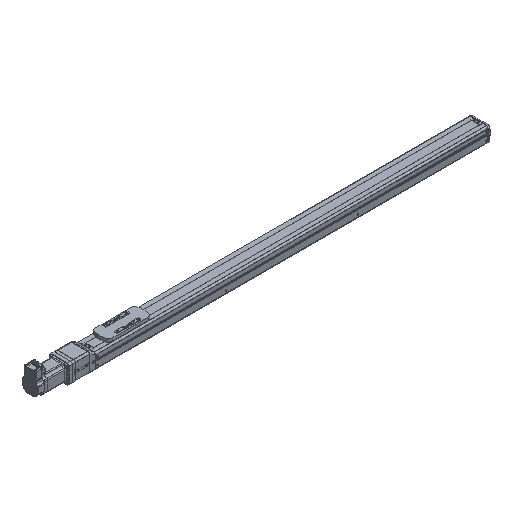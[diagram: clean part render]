
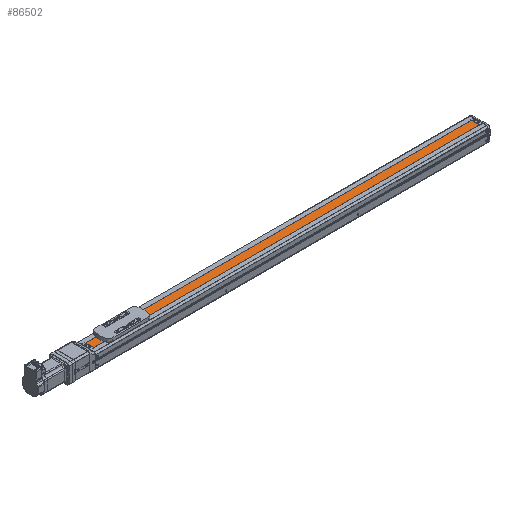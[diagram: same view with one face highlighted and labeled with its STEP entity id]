
A CAD part, isometric view. The second image highlights one B-rep face of the part: STEP entity #86502.
In plain terms, the highlighted planar face has unit normal (0, 0, 1) as drawn and (0, 1, 0) by its records, which use the part's own axes.
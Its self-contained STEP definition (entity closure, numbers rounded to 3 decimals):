
#86502 = ADVANCED_FACE('',(#86503),#86517,.T.);
#86503 = FACE_BOUND('',#86504,.T.);
#86504 = EDGE_LOOP('',(#86505,#86540,#86568,#86596));
#86505 = ORIENTED_EDGE('',*,*,#86506,.F.);
#86506 = EDGE_CURVE('',#86507,#86509,#86511,.T.);
#86507 = VERTEX_POINT('',#86508);
#86508 = CARTESIAN_POINT('',(-1280.5,18.,-13.));
#86509 = VERTEX_POINT('',#86510);
#86510 = CARTESIAN_POINT('',(-21.5,18.,-13.));
#86511 = SURFACE_CURVE('',#86512,(#86516,#86528),.PCURVE_S1.);
#86512 = LINE('',#86513,#86514);
#86513 = CARTESIAN_POINT('',(-1280.5,18.,-13.));
#86514 = VECTOR('',#86515,1.);
#86515 = DIRECTION('',(1.,0.,0.));
#86516 = PCURVE('',#86517,#86522);
#86517 = PLANE('',#86518);
#86518 = AXIS2_PLACEMENT_3D('',#86519,#86520,#86521);
#86519 = CARTESIAN_POINT('',(-1290.5,18.,-26.583));
#86520 = DIRECTION('',(0.,1.,0.));
#86521 = DIRECTION('',(0.,-0.,1.));
#86522 = DEFINITIONAL_REPRESENTATION('',(#86523),#86527);
#86523 = LINE('',#86524,#86525);
#86524 = CARTESIAN_POINT('',(13.583,10.));
#86525 = VECTOR('',#86526,1.);
#86526 = DIRECTION('',(0.,1.));
#86527 = ( GEOMETRIC_REPRESENTATION_CONTEXT(2) 
PARAMETRIC_REPRESENTATION_CONTEXT() REPRESENTATION_CONTEXT('2D SPACE',''
  ) );
#86528 = PCURVE('',#86529,#86534);
#86529 = PLANE('',#86530);
#86530 = AXIS2_PLACEMENT_3D('',#86531,#86532,#86533);
#86531 = CARTESIAN_POINT('',(-1280.5,18.,-13.));
#86532 = DIRECTION('',(0.,0.,1.));
#86533 = DIRECTION('',(1.,0.,-0.));
#86534 = DEFINITIONAL_REPRESENTATION('',(#86535),#86539);
#86535 = LINE('',#86536,#86537);
#86536 = CARTESIAN_POINT('',(0.,0.));
#86537 = VECTOR('',#86538,1.);
#86538 = DIRECTION('',(1.,0.));
#86539 = ( GEOMETRIC_REPRESENTATION_CONTEXT(2) 
PARAMETRIC_REPRESENTATION_CONTEXT() REPRESENTATION_CONTEXT('2D SPACE',''
  ) );
#86540 = ORIENTED_EDGE('',*,*,#86541,.T.);
#86541 = EDGE_CURVE('',#86507,#86542,#86544,.T.);
#86542 = VERTEX_POINT('',#86543);
#86543 = CARTESIAN_POINT('',(-1280.5,18.,13.));
#86544 = SURFACE_CURVE('',#86545,(#86549,#86556),.PCURVE_S1.);
#86545 = LINE('',#86546,#86547);
#86546 = CARTESIAN_POINT('',(-1280.5,18.,-26.583));
#86547 = VECTOR('',#86548,1.);
#86548 = DIRECTION('',(0.,0.,1.));
#86549 = PCURVE('',#86517,#86550);
#86550 = DEFINITIONAL_REPRESENTATION('',(#86551),#86555);
#86551 = LINE('',#86552,#86553);
#86552 = CARTESIAN_POINT('',(0.,10.));
#86553 = VECTOR('',#86554,1.);
#86554 = DIRECTION('',(1.,0.));
#86555 = ( GEOMETRIC_REPRESENTATION_CONTEXT(2) 
PARAMETRIC_REPRESENTATION_CONTEXT() REPRESENTATION_CONTEXT('2D SPACE',''
  ) );
#86556 = PCURVE('',#86557,#86562);
#86557 = PLANE('',#86558);
#86558 = AXIS2_PLACEMENT_3D('',#86559,#86560,#86561);
#86559 = CARTESIAN_POINT('',(-1280.5,0.,0.));
#86560 = DIRECTION('',(1.,0.,0.));
#86561 = DIRECTION('',(0.,0.,-1.));
#86562 = DEFINITIONAL_REPRESENTATION('',(#86563),#86567);
#86563 = LINE('',#86564,#86565);
#86564 = CARTESIAN_POINT('',(26.583,18.));
#86565 = VECTOR('',#86566,1.);
#86566 = DIRECTION('',(-1.,0.));
#86567 = ( GEOMETRIC_REPRESENTATION_CONTEXT(2) 
PARAMETRIC_REPRESENTATION_CONTEXT() REPRESENTATION_CONTEXT('2D SPACE',''
  ) );
#86568 = ORIENTED_EDGE('',*,*,#86569,.T.);
#86569 = EDGE_CURVE('',#86542,#86570,#86572,.T.);
#86570 = VERTEX_POINT('',#86571);
#86571 = CARTESIAN_POINT('',(-21.5,18.,13.));
#86572 = SURFACE_CURVE('',#86573,(#86577,#86584),.PCURVE_S1.);
#86573 = LINE('',#86574,#86575);
#86574 = CARTESIAN_POINT('',(-1280.5,18.,13.));
#86575 = VECTOR('',#86576,1.);
#86576 = DIRECTION('',(1.,0.,0.));
#86577 = PCURVE('',#86517,#86578);
#86578 = DEFINITIONAL_REPRESENTATION('',(#86579),#86583);
#86579 = LINE('',#86580,#86581);
#86580 = CARTESIAN_POINT('',(39.583,10.));
#86581 = VECTOR('',#86582,1.);
#86582 = DIRECTION('',(0.,1.));
#86583 = ( GEOMETRIC_REPRESENTATION_CONTEXT(2) 
PARAMETRIC_REPRESENTATION_CONTEXT() REPRESENTATION_CONTEXT('2D SPACE',''
  ) );
#86584 = PCURVE('',#86585,#86590);
#86585 = PLANE('',#86586);
#86586 = AXIS2_PLACEMENT_3D('',#86587,#86588,#86589);
#86587 = CARTESIAN_POINT('',(-1280.5,15.,13.));
#86588 = DIRECTION('',(0.,0.,-1.));
#86589 = DIRECTION('',(-1.,0.,0.));
#86590 = DEFINITIONAL_REPRESENTATION('',(#86591),#86595);
#86591 = LINE('',#86592,#86593);
#86592 = CARTESIAN_POINT('',(0.,3.));
#86593 = VECTOR('',#86594,1.);
#86594 = DIRECTION('',(-1.,0.));
#86595 = ( GEOMETRIC_REPRESENTATION_CONTEXT(2) 
PARAMETRIC_REPRESENTATION_CONTEXT() REPRESENTATION_CONTEXT('2D SPACE',''
  ) );
#86596 = ORIENTED_EDGE('',*,*,#86597,.T.);
#86597 = EDGE_CURVE('',#86570,#86509,#86598,.T.);
#86598 = SURFACE_CURVE('',#86599,(#86603,#86610),.PCURVE_S1.);
#86599 = LINE('',#86600,#86601);
#86600 = CARTESIAN_POINT('',(-21.5,18.,-26.583));
#86601 = VECTOR('',#86602,1.);
#86602 = DIRECTION('',(0.,0.,-1.));
#86603 = PCURVE('',#86517,#86604);
#86604 = DEFINITIONAL_REPRESENTATION('',(#86605),#86609);
#86605 = LINE('',#86606,#86607);
#86606 = CARTESIAN_POINT('',(0.,1269.));
#86607 = VECTOR('',#86608,1.);
#86608 = DIRECTION('',(-1.,0.));
#86609 = ( GEOMETRIC_REPRESENTATION_CONTEXT(2) 
PARAMETRIC_REPRESENTATION_CONTEXT() REPRESENTATION_CONTEXT('2D SPACE',''
  ) );
#86610 = PCURVE('',#86611,#86616);
#86611 = PLANE('',#86612);
#86612 = AXIS2_PLACEMENT_3D('',#86613,#86614,#86615);
#86613 = CARTESIAN_POINT('',(-21.5,0.,0.));
#86614 = DIRECTION('',(1.,0.,0.));
#86615 = DIRECTION('',(0.,0.,-1.));
#86616 = DEFINITIONAL_REPRESENTATION('',(#86617),#86621);
#86617 = LINE('',#86618,#86619);
#86618 = CARTESIAN_POINT('',(26.583,18.));
#86619 = VECTOR('',#86620,1.);
#86620 = DIRECTION('',(1.,0.));
#86621 = ( GEOMETRIC_REPRESENTATION_CONTEXT(2) 
PARAMETRIC_REPRESENTATION_CONTEXT() REPRESENTATION_CONTEXT('2D SPACE',''
  ) );
